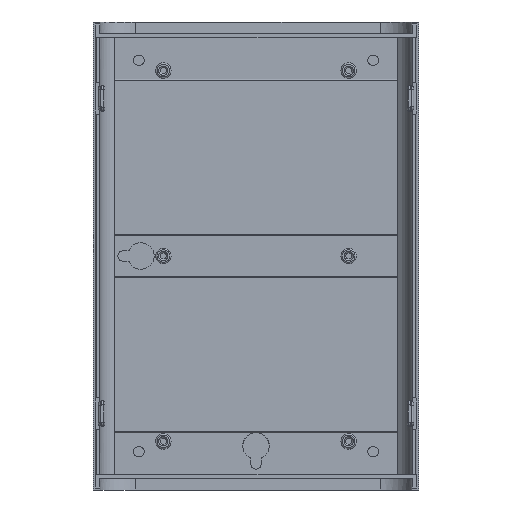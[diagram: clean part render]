
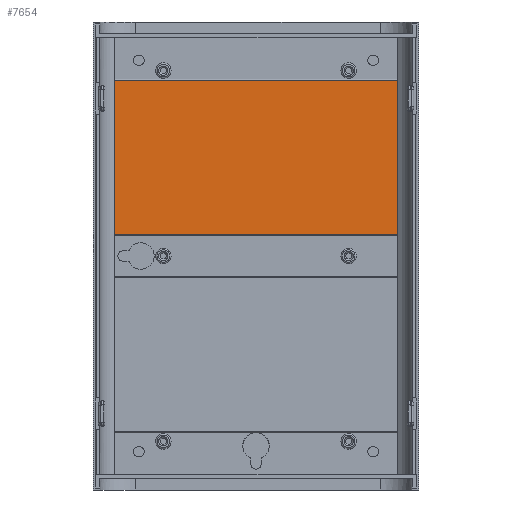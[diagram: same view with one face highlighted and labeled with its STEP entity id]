
A CAD part, front view. The second image highlights one B-rep face of the part: STEP entity #7654.
In plain terms, the highlighted planar face has unit normal (0, -1, 0).
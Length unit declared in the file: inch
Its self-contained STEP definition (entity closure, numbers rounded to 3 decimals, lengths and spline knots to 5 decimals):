
#7589=CARTESIAN_POINT('',(-2.145,0.41679,2.65031));
#7590=VERTEX_POINT('',#7589);
#7598=CARTESIAN_POINT('',(2.145,0.41679,2.65031));
#7599=VERTEX_POINT('',#7598);
#7600=CARTESIAN_POINT('',(-2.145,0.41679,2.65031));
#7601=DIRECTION('',(1.0,0.0,0.0));
#7602=VECTOR('',#7601,4.29);
#7603=LINE('',#7600,#7602);
#7604=EDGE_CURVE('',#7590,#7599,#7603,.T.);
#7624=CARTESIAN_POINT('',(0.,0.41679,1.49125));
#7625=DIRECTION('',(0.0,1.0,0.0));
#7626=DIRECTION('',(0.0,0.0,1.0));
#7627=AXIS2_PLACEMENT_3D('',#7624,#7625,#7626);
#7628=PLANE('',#7627);
#7629=ORIENTED_EDGE('',*,*,#7604,.F.);
#7630=CARTESIAN_POINT('',(-2.145,0.41679,0.33219));
#7631=VERTEX_POINT('',#7630);
#7632=CARTESIAN_POINT('',(-2.145,0.41679,2.65031));
#7633=DIRECTION('',(0.0,0.0,-1.0));
#7634=VECTOR('',#7633,2.31813);
#7635=LINE('',#7632,#7634);
#7636=EDGE_CURVE('',#7590,#7631,#7635,.T.);
#7637=ORIENTED_EDGE('',*,*,#7636,.T.);
#7638=CARTESIAN_POINT('',(2.145,0.41679,0.33219));
#7639=VERTEX_POINT('',#7638);
#7640=CARTESIAN_POINT('',(2.145,0.41679,0.33219));
#7641=DIRECTION('',(-1.0,0.0,0.0));
#7642=VECTOR('',#7641,4.29);
#7643=LINE('',#7640,#7642);
#7644=EDGE_CURVE('',#7639,#7631,#7643,.T.);
#7645=ORIENTED_EDGE('',*,*,#7644,.F.);
#7646=CARTESIAN_POINT('',(2.145,0.41679,0.33219));
#7647=DIRECTION('',(0.0,0.0,1.0));
#7648=VECTOR('',#7647,2.31813);
#7649=LINE('',#7646,#7648);
#7650=EDGE_CURVE('',#7639,#7599,#7649,.T.);
#7651=ORIENTED_EDGE('',*,*,#7650,.T.);
#7652=EDGE_LOOP('',(#7629,#7637,#7645,#7651));
#7653=FACE_OUTER_BOUND('',#7652,.T.);
#7654=ADVANCED_FACE('',(#7653),#7628,.F.);
